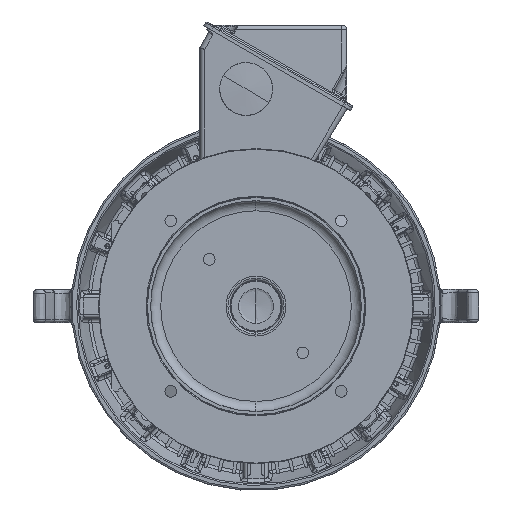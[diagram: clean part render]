
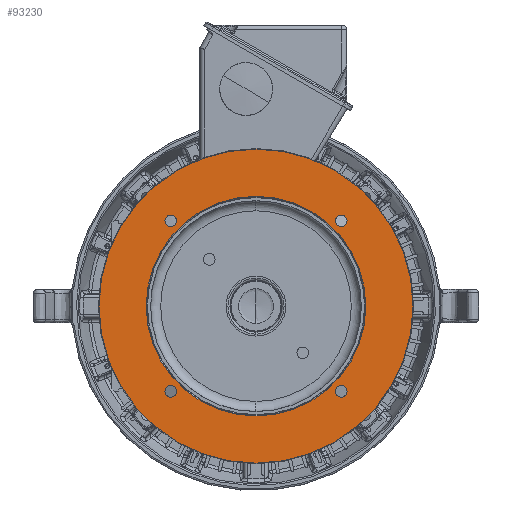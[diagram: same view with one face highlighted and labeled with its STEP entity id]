
A CAD part, front view. The second image highlights one B-rep face of the part: STEP entity #93230.
In plain terms, the highlighted planar face has unit normal (0, -1, 0) as drawn and (0, 0, -1) by its records, which use the part's own axes.
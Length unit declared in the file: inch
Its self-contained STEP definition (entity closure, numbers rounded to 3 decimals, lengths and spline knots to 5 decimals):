
#75311=CARTESIAN_POINT('',(0.,0.,-4.57));
#75312=DIRECTION('',(0.,0.,1.));
#75313=DIRECTION('',(0.,-1.,0.));
#75314=AXIS2_PLACEMENT_3D('',#75311,#75312,#75313);
#75316=CARTESIAN_POINT('',(0.,0.,-4.57));
#75317=DIRECTION('',(0.,0.,1.));
#75318=DIRECTION('',(0.,1.,0.));
#75319=AXIS2_PLACEMENT_3D('',#75316,#75317,#75318);
#75321=CARTESIAN_POINT('',(3.22617,3.22617,-4.57));
#75322=DIRECTION('',(0.,0.,1.));
#75323=DIRECTION('',(1.,0.,0.));
#75324=AXIS2_PLACEMENT_3D('',#75321,#75322,#75323);
#75326=CARTESIAN_POINT('',(3.22617,3.22617,-4.57));
#75327=DIRECTION('',(0.,0.,1.));
#75328=DIRECTION('',(-1.,0.,0.));
#75329=AXIS2_PLACEMENT_3D('',#75326,#75327,#75328);
#75331=CARTESIAN_POINT('',(3.22617,-3.22617,-4.57));
#75332=DIRECTION('',(0.,0.,1.));
#75333=DIRECTION('',(1.,0.,0.));
#75334=AXIS2_PLACEMENT_3D('',#75331,#75332,#75333);
#75336=CARTESIAN_POINT('',(3.22617,-3.22617,-4.57));
#75337=DIRECTION('',(0.,0.,1.));
#75338=DIRECTION('',(-1.,0.,0.));
#75339=AXIS2_PLACEMENT_3D('',#75336,#75337,#75338);
#75341=CARTESIAN_POINT('',(-3.22617,-3.22617,-4.57));
#75342=DIRECTION('',(0.,0.,1.));
#75343=DIRECTION('',(1.,0.,0.));
#75344=AXIS2_PLACEMENT_3D('',#75341,#75342,#75343);
#75346=CARTESIAN_POINT('',(-3.22617,-3.22617,-4.57));
#75347=DIRECTION('',(0.,0.,1.));
#75348=DIRECTION('',(-1.,0.,0.));
#75349=AXIS2_PLACEMENT_3D('',#75346,#75347,#75348);
#75351=CARTESIAN_POINT('',(-3.22617,3.22617,-4.57));
#75352=DIRECTION('',(0.,0.,1.));
#75353=DIRECTION('',(1.,0.,0.));
#75354=AXIS2_PLACEMENT_3D('',#75351,#75352,#75353);
#75356=CARTESIAN_POINT('',(-3.22617,3.22617,-4.57));
#75357=DIRECTION('',(0.,0.,1.));
#75358=DIRECTION('',(-1.,0.,0.));
#75359=AXIS2_PLACEMENT_3D('',#75356,#75357,#75358);
#75369=CARTESIAN_POINT('',(0.,0.,-4.57));
#75370=DIRECTION('',(0.,0.,-1.));
#75371=DIRECTION('',(0.,1.,0.));
#75372=AXIS2_PLACEMENT_3D('',#75369,#75370,#75371);
#75374=CARTESIAN_POINT('',(0.,0.,-4.57));
#75375=DIRECTION('',(0.,0.,1.));
#75376=DIRECTION('',(0.,1.,0.));
#75377=AXIS2_PLACEMENT_3D('',#75374,#75375,#75376);
#90564=CARTESIAN_POINT('',(0.,-5.94297,-4.57));
#90565=CARTESIAN_POINT('',(0.,5.94297,-4.57));
#90566=VERTEX_POINT('',#90564);
#90567=VERTEX_POINT('',#90565);
#90576=CARTESIAN_POINT('',(0.,4.156,-4.57));
#90577=VERTEX_POINT('',#90576);
#90588=CARTESIAN_POINT('',(0.,-4.156,-4.57));
#90589=VERTEX_POINT('',#90588);
#90652=CARTESIAN_POINT('',(3.44517,3.22617,-4.57));
#90653=CARTESIAN_POINT('',(3.00717,3.22617,-4.57));
#90654=VERTEX_POINT('',#90652);
#90655=VERTEX_POINT('',#90653);
#90660=CARTESIAN_POINT('',(3.44517,-3.22617,-4.57));
#90661=CARTESIAN_POINT('',(3.00717,-3.22617,-4.57));
#90662=VERTEX_POINT('',#90660);
#90663=VERTEX_POINT('',#90661);
#90668=CARTESIAN_POINT('',(-3.00717,-3.22617,-4.57));
#90669=CARTESIAN_POINT('',(-3.44517,-3.22617,-4.57));
#90670=VERTEX_POINT('',#90668);
#90671=VERTEX_POINT('',#90669);
#90676=CARTESIAN_POINT('',(-3.00717,3.22617,-4.57));
#90677=CARTESIAN_POINT('',(-3.44517,3.22617,-4.57));
#90678=VERTEX_POINT('',#90676);
#90679=VERTEX_POINT('',#90677);
#93190=CARTESIAN_POINT('',(0.,0.,-4.57));
#93191=DIRECTION('',(0.,0.,1.));
#93192=DIRECTION('',(0.,1.,0.));
#93193=AXIS2_PLACEMENT_3D('',#93190,#93191,#93192);
#93194=PLANE('',#93193);
#93195=ORIENTED_EDGE('',*,*,#93180,.T.);
#93197=ORIENTED_EDGE('',*,*,#93196,.T.);
#93198=EDGE_LOOP('',(#93195,#93197));
#93199=FACE_OUTER_BOUND('',#93198,.F.);
#93201=ORIENTED_EDGE('',*,*,#93200,.T.);
#93203=ORIENTED_EDGE('',*,*,#93202,.F.);
#93204=EDGE_LOOP('',(#93201,#93203));
#93205=FACE_BOUND('',#93204,.F.);
#93207=ORIENTED_EDGE('',*,*,#93206,.F.);
#93209=ORIENTED_EDGE('',*,*,#93208,.F.);
#93210=EDGE_LOOP('',(#93207,#93209));
#93211=FACE_BOUND('',#93210,.F.);
#93213=ORIENTED_EDGE('',*,*,#93212,.F.);
#93215=ORIENTED_EDGE('',*,*,#93214,.F.);
#93216=EDGE_LOOP('',(#93213,#93215));
#93217=FACE_BOUND('',#93216,.F.);
#93219=ORIENTED_EDGE('',*,*,#93218,.F.);
#93221=ORIENTED_EDGE('',*,*,#93220,.F.);
#93222=EDGE_LOOP('',(#93219,#93221));
#93223=FACE_BOUND('',#93222,.F.);
#93225=ORIENTED_EDGE('',*,*,#93224,.F.);
#93227=ORIENTED_EDGE('',*,*,#93226,.F.);
#93228=EDGE_LOOP('',(#93225,#93227));
#93229=FACE_BOUND('',#93228,.F.);
#93230=ADVANCED_FACE('',(#93199,#93205,#93211,#93217,#93223,#93229),#93194,.F.);
#75315=CIRCLE('',#75314,5.94297);
#75320=CIRCLE('',#75319,5.94297);
#75325=CIRCLE('',#75324,0.219);
#75330=CIRCLE('',#75329,0.219);
#75335=CIRCLE('',#75334,0.219);
#75340=CIRCLE('',#75339,0.219);
#75345=CIRCLE('',#75344,0.219);
#75350=CIRCLE('',#75349,0.219);
#75355=CIRCLE('',#75354,0.219);
#75360=CIRCLE('',#75359,0.219);
#75373=CIRCLE('',#75372,4.156);
#75378=CIRCLE('',#75377,4.156);
#93180=EDGE_CURVE('',#90566,#90567,#75315,.T.);
#93196=EDGE_CURVE('',#90567,#90566,#75320,.T.);
#93200=EDGE_CURVE('',#90577,#90589,#75373,.T.);
#93202=EDGE_CURVE('',#90577,#90589,#75378,.T.);
#93206=EDGE_CURVE('',#90654,#90655,#75325,.T.);
#93208=EDGE_CURVE('',#90655,#90654,#75330,.T.);
#93212=EDGE_CURVE('',#90662,#90663,#75335,.T.);
#93214=EDGE_CURVE('',#90663,#90662,#75340,.T.);
#93218=EDGE_CURVE('',#90670,#90671,#75345,.T.);
#93220=EDGE_CURVE('',#90671,#90670,#75350,.T.);
#93224=EDGE_CURVE('',#90678,#90679,#75355,.T.);
#93226=EDGE_CURVE('',#90679,#90678,#75360,.T.);
